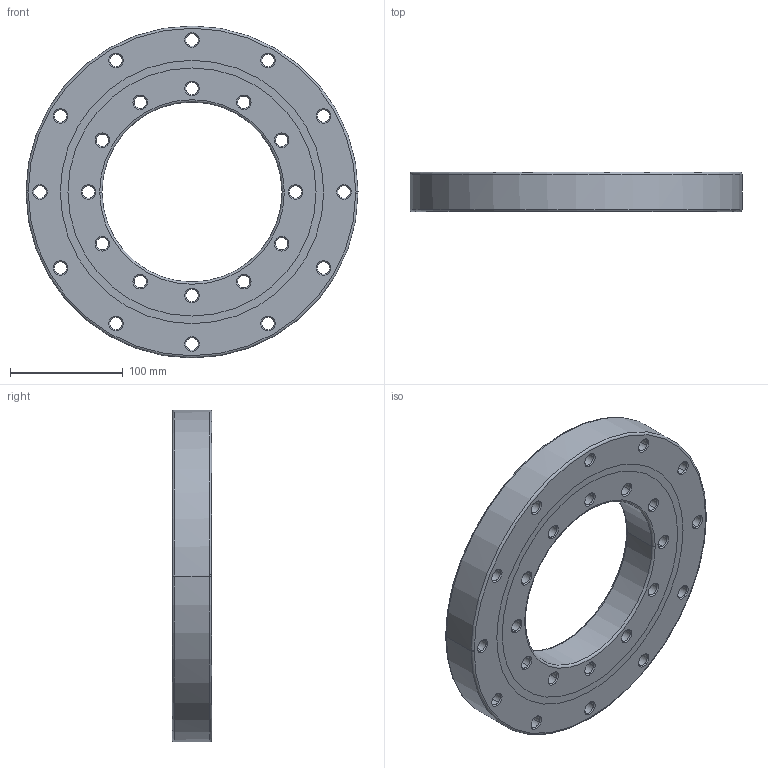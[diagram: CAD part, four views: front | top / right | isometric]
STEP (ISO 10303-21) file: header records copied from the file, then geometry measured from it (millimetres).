
FILE_DESCRIPTION(('no description'),'unknown implementation level');
FILE_NAME('CRBE16035B_64.stp',' ',('HIWIN GmbH'),('CADClick - KiM GmbH - www.kimweb.de'),'unknown preprocess','ACIS','unknown authorization');
FILE_SCHEMA(('automotive_design'));
Length unit declared in the file: millimetre
Products named in the file (4): CRBE16035B_1; CRBE16035B_2; CRBE16035B_3; CRBE16035B
Bounding box: 295 x 35 x 295 mm (x, y, z)
Volume: 1412072.6 mm3; surface area: 236579.1 mm2
Topology: 4 solids, 4 shells, 336 faces, 808 edges, 504 vertices
Faces by surface type: cone 176, cylinder 112, plane 32, torus 16
Entity records: 19393 total; most frequent: DIRECTION 2008, STYLED_ITEM 1652, PRESENTATION_STYLE_ASSIGNMENT 1652, CARTESIAN_POINT 1652, COLOUR_RGB 1652, ORIENTED_EDGE 1616, AXIS2_PLACEMENT_3D 860, EDGE_CURVE 808
